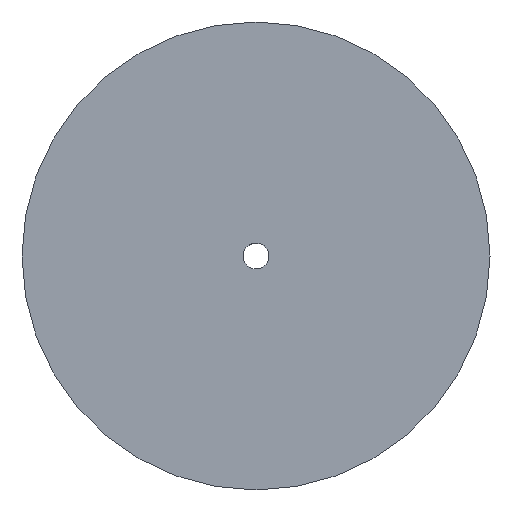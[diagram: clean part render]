
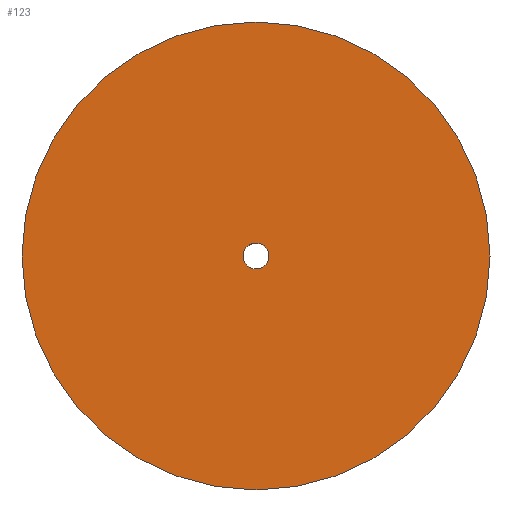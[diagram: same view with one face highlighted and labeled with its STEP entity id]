
A CAD part, top view. The second image highlights one B-rep face of the part: STEP entity #123.
In plain terms, the highlighted planar face has unit normal (0, 0, 1).
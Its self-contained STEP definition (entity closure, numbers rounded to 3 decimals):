
#62=CARTESIAN_POINT('Vertex',(-2.852,1.558,0.)) ;
#76=CARTESIAN_POINT('Vertex',(2.852,-1.558,0.)) ;
#79=CARTESIAN_POINT('Axis2P3D Location',(0.,0.,0.)) ;
#91=CARTESIAN_POINT('Axis2P3D Location',(0.,0.,0.)) ;
#96=CARTESIAN_POINT('Axis2P3D Location',(0.,0.,0.)) ;
#100=CARTESIAN_POINT('Vertex',(59.,0.,0.)) ;
#102=CARTESIAN_POINT('Vertex',(-59.,0.,0.)) ;
#105=CARTESIAN_POINT('Axis2P3D Location',(0.,0.,0.)) ;
#114=CARTESIAN_POINT('Axis2P3D Location',(0.,0.,0.)) ;
#80=DIRECTION('Axis2P3D Direction',(0.,-0.,-1.)) ;
#92=DIRECTION('Axis2P3D Direction',(0.,0.,1.)) ;
#93=DIRECTION('Axis2P3D XDirection',(1.,0.,0.)) ;
#97=DIRECTION('Axis2P3D Direction',(0.,0.,1.)) ;
#106=DIRECTION('Axis2P3D Direction',(0.,0.,1.)) ;
#115=DIRECTION('Axis2P3D Direction',(0.,0.,1.)) ;
#81=AXIS2_PLACEMENT_3D('Circle Axis2P3D',#79,#80,$) ;
#94=AXIS2_PLACEMENT_3D('Plane Axis2P3D',#91,#92,#93) ;
#98=AXIS2_PLACEMENT_3D('Circle Axis2P3D',#96,#97,$) ;
#107=AXIS2_PLACEMENT_3D('Circle Axis2P3D',#105,#106,$) ;
#116=AXIS2_PLACEMENT_3D('Circle Axis2P3D',#114,#115,$) ;
#111=ORIENTED_EDGE('',*,*,#104,.F.) ;
#112=ORIENTED_EDGE('',*,*,#109,.F.) ;
#120=ORIENTED_EDGE('',*,*,#118,.F.) ;
#121=ORIENTED_EDGE('',*,*,#83,.F.) ;
#122=FACE_BOUND('',#119,.T.) ;
#123=ADVANCED_FACE('PartBody',(#113,#122),#95,.T.) ;
#82=CIRCLE('generated circle',#81,3.25) ;
#99=CIRCLE('generated circle',#98,59.) ;
#108=CIRCLE('generated circle',#107,59.) ;
#117=CIRCLE('generated circle',#116,3.25) ;
#83=EDGE_CURVE('',#77,#63,#82,.F.) ;
#104=EDGE_CURVE('',#101,#103,#99,.F.) ;
#109=EDGE_CURVE('',#103,#101,#108,.F.) ;
#118=EDGE_CURVE('',#63,#77,#117,.T.) ;
#110=EDGE_LOOP('',(#111,#112)) ;
#119=EDGE_LOOP('',(#120,#121)) ;
#113=FACE_OUTER_BOUND('',#110,.T.) ;
#95=PLANE('',#94) ;
#63=VERTEX_POINT('',#62) ;
#77=VERTEX_POINT('',#76) ;
#101=VERTEX_POINT('',#100) ;
#103=VERTEX_POINT('',#102) ;
